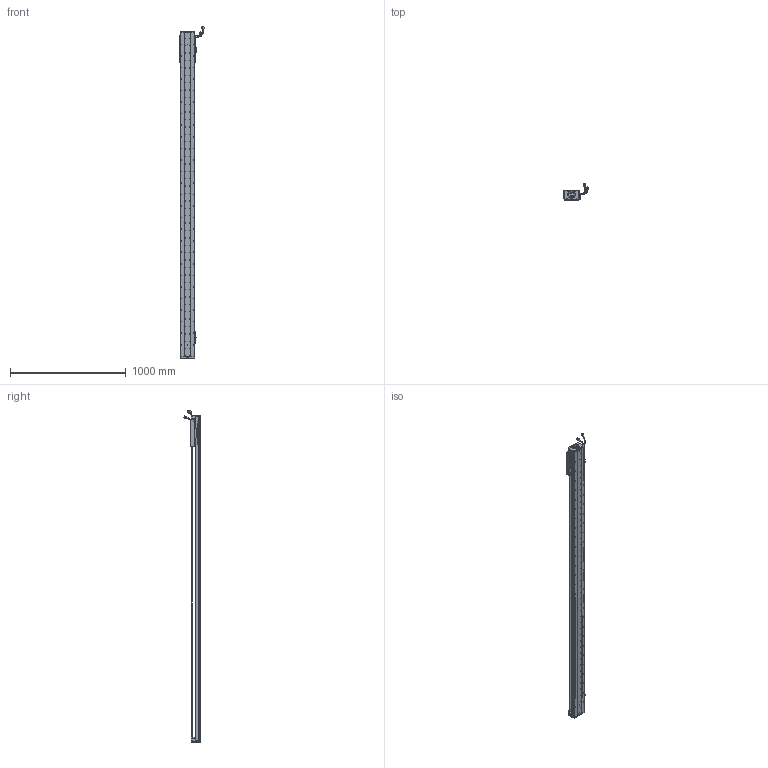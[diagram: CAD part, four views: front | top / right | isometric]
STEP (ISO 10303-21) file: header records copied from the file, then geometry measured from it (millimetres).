
FILE_DESCRIPTION (( 'STEP AP203' ), '1' );
FILE_NAME ('Z3-RY120D-1-L500-B-K.SLDASM_2500.step', '2021-05-17T05:50:27', ( '盈信电脑' ), ( '东莞市道滘镇水果街19号' ), 'SwSTEP 2.0', 'SolidWorks 2016', '' );
FILE_SCHEMA (( 'CONFIG_CONTROL_DESIGN' ));
Length unit declared in the file: millimetre
Products named in the file (37): Z3-RY120-500-倰第菁釱_2500; 672嫖萇羲壽假蚾釱; 120-Z-臏賑輸盄裔(21遴); HARNESS; 140蚥薯蝶輸; SEAL; SCALE-Part-2; SCREW-M1.6-2; LABEL; SCREW-M1.6; RY100FB-遵嫖萇覜茼え; HOLDER0; Z3-RY120-L500詩湍100mm遵_2500; Z-120詩湍傷裔啣; COVER; 榋妏寠巭燃_暯_M2_2; Z-RY120D詩湍奻揤裔; 140雄赽晤鎢ん堤盄; Z-RY120D詩湍狟揤裔; 080黍杅芛假蚾釱21遴; SEAL-Part-1; Z3-RY120D-1-L500-B-K.SLDASM_2500; LABEL-Part-1; PSLH080_PSLF2; HARNESS-Part-1; SHIELDPLATE; COVER-Part-1; SCREW-M1.6-1; SCREW-M1.7; Z3-RY120铝滑块（21款）; SCREW-M1.6-3; HARNESS-Part-2; 覜茼ん672; SCREW-M1.7-1; PBU_SHEET; SCALE-Part-1; SCALE
Assembly tree (43 placements, depth 4):
  Z3-RY120D-1-L500-B-K.SLDASM_2500
    Z3-RY120-500-倰第菁釱_2500
    覜茼ん672  x3
    672嫖萇羲壽假蚾釱  x2
    Z3-RY120铝滑块（21款）
    PSLH080_PSLF2
      SCALE
        SCALE-Part-1
        SCALE-Part-2
      HARNESS
        HARNESS-Part-1
        HARNESS-Part-2
      LABEL
        LABEL-Part-1
      COVER
        COVER-Part-1
      SEAL
        SEAL-Part-1
      榋妏寠巭燃_暯_M2_2
      SHIELDPLATE
      SCREW-M1.7
      SCREW-M1.7-1
      PBU_SHEET
      SCREW-M1.6
      SCREW-M1.6-1
      SCREW-M1.6-2
      SCREW-M1.6-3
      HOLDER0
    080黍杅芛假蚾釱21遴
    120-Z-臏賑輸盄裔(21遴)
    140雄赽晤鎢ん堤盄
    140蚥薯蝶輸  x2
    RY100FB-遵嫖萇覜茼え
    Z-120詩湍傷裔啣  x2
    Z-RY120D詩湍奻揤裔  x2
    Z-RY120D詩湍狟揤裔  x2
    Z3-RY120-L500詩湍100mm遵_2500
Bounding box: 222.83 x 140.94 x 2873.99 mm (x, y, z)
Volume: 6689891.1 mm3; surface area: 2342028.4 mm2
Topology: 38 solids, 38 shells, 3769 faces, 10763 edges, 6786 vertices
Faces by surface type: cylinder 1993, plane 1256, cone 398, torus 69, bspline 53
Entity records: 127170 total; most frequent: CARTESIAN_POINT 39083, ORIENTED_EDGE 18254, DIRECTION 16715, EDGE_CURVE 9127, AXIS2_PLACEMENT_3D 6192, VERTEX_POINT 5906, VECTOR 4331, LINE 4331
